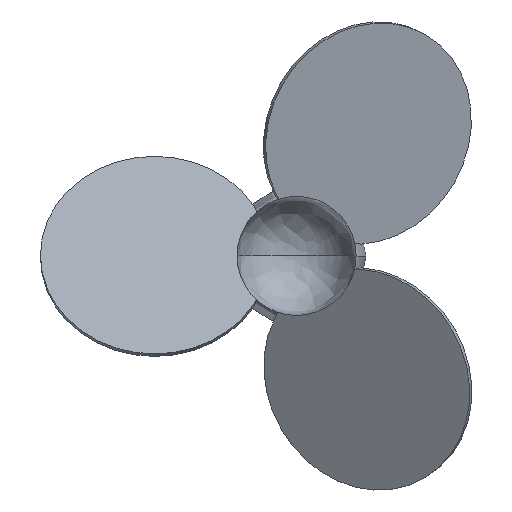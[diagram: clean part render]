
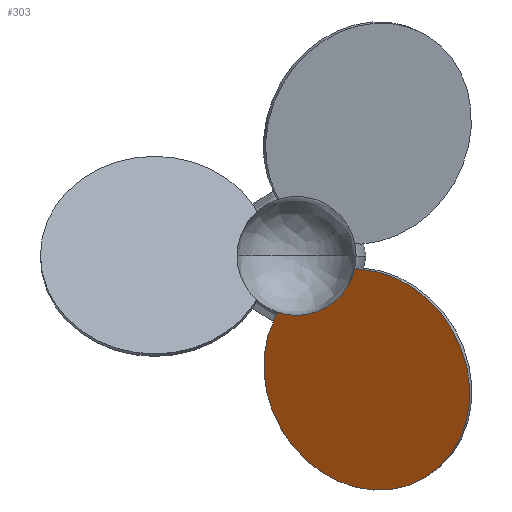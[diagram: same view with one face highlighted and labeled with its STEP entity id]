
A CAD part, top view. The second image highlights one B-rep face of the part: STEP entity #303.
In plain terms, the highlighted planar face has unit normal (-0.433, -0.25, 0.866).
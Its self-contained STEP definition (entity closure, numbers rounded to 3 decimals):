
#303=ADVANCED_FACE('',(#457),#1873,.T.);
#457=FACE_OUTER_BOUND('',#611,.T.);
#611=EDGE_LOOP('',(#914,#915));
#914=ORIENTED_EDGE('',*,*,#1234,.F.);
#915=ORIENTED_EDGE('',*,*,#1230,.F.);
#1230=EDGE_CURVE('',#1766,#1768,#1418,.T.);
#1234=EDGE_CURVE('',#1768,#1766,#1420,.T.);
#1418=TRIMMED_CURVE($,#1560,(#5257),(#5258),.T.,.CARTESIAN.);
#1420=TRIMMED_CURVE($,#1562,(#5267),(#5268),.T.,.CARTESIAN.);
#1560=CIRCLE('',#2111,115.);
#1562=CIRCLE('',#2113,115.);
#1766=VERTEX_POINT('',#5252);
#1768=VERTEX_POINT('',#5254);
#1873=PLANE('',#2108);
#2108=AXIS2_PLACEMENT_3D('',#5249,#2418,$);
#2111=AXIS2_PLACEMENT_3D($,#5256,#2421,#2422);
#2113=AXIS2_PLACEMENT_3D($,#5266,#2425,#2426);
#2418=DIRECTION('',(-0.433,-0.25,0.866));
#2421=DIRECTION('',(0.433,0.25,-0.866));
#2422=DIRECTION('',(-0.5,0.866,0.));
#2425=DIRECTION('',(0.433,0.25,-0.866));
#2426=DIRECTION('',(0.5,-0.866,0.));
#5249=CARTESIAN_POINT('',(17191.431,31052.739,100.012));
#5252=CARTESIAN_POINT('',(17169.868,31339.069,171.887));
#5254=CARTESIAN_POINT('',(17284.868,31139.883,171.887));
#5256=CARTESIAN_POINT('',(17227.368,31239.476,171.887));
#5257=CARTESIAN_POINT('',(17169.868,31339.069,171.887));
#5258=CARTESIAN_POINT('',(17284.868,31139.883,171.887));
#5266=CARTESIAN_POINT('',(17227.368,31239.476,171.887));
#5267=CARTESIAN_POINT('',(17284.868,31139.883,171.887));
#5268=CARTESIAN_POINT('',(17169.868,31339.069,171.887));
